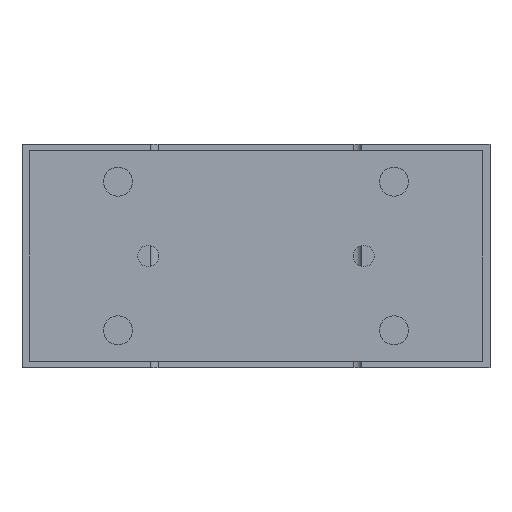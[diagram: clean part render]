
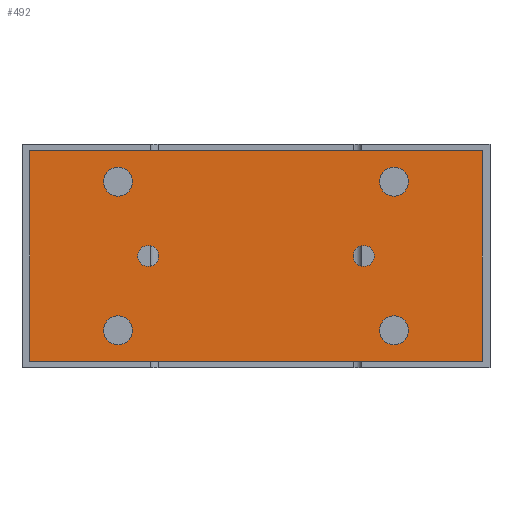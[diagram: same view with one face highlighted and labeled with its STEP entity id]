
A CAD part, left-side view. The second image highlights one B-rep face of the part: STEP entity #492.
In plain terms, the highlighted planar face has unit normal (-1, 0, 0).
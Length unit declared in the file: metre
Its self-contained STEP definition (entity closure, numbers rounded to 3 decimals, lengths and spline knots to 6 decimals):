
#492 = ADVANCED_FACE( '', ( #1150, #1151, #1152, #1153, #1154, #1155, #1156 ), #1157, .T. );
#1150 = FACE_BOUND( '', #1950, .T. );
#1151 = FACE_BOUND( '', #1951, .T. );
#1152 = FACE_BOUND( '', #1952, .T. );
#1153 = FACE_BOUND( '', #1953, .T. );
#1154 = FACE_BOUND( '', #1954, .T. );
#1155 = FACE_BOUND( '', #1955, .T. );
#1156 = FACE_OUTER_BOUND( '', #1956, .T. );
#1157 = PLANE( '', #1957 );
#1950 = EDGE_LOOP( '', ( #3181 ) );
#1951 = EDGE_LOOP( '', ( #3182 ) );
#1952 = EDGE_LOOP( '', ( #3183 ) );
#1953 = EDGE_LOOP( '', ( #3184 ) );
#1954 = EDGE_LOOP( '', ( #3185 ) );
#1955 = EDGE_LOOP( '', ( #3186 ) );
#1956 = EDGE_LOOP( '', ( #3187, #3188, #3189, #3190 ) );
#1957 = AXIS2_PLACEMENT_3D( '', #3191, #3192, #3193 );
#3181 = ORIENTED_EDGE( '', *, *, #4024, .F. );
#3182 = ORIENTED_EDGE( '', *, *, #3891, .F. );
#3183 = ORIENTED_EDGE( '', *, *, #4044, .F. );
#3184 = ORIENTED_EDGE( '', *, *, #3922, .F. );
#3185 = ORIENTED_EDGE( '', *, *, #3868, .F. );
#3186 = ORIENTED_EDGE( '', *, *, #4226, .T. );
#3187 = ORIENTED_EDGE( '', *, *, #3864, .T. );
#3188 = ORIENTED_EDGE( '', *, *, #4227, .T. );
#3189 = ORIENTED_EDGE( '', *, *, #4228, .T. );
#3190 = ORIENTED_EDGE( '', *, *, #4229, .T. );
#3191 = CARTESIAN_POINT( '', ( -0.118, -0.086, -0.0025 ) );
#3192 = DIRECTION( '', ( -1., 0., 0. ) );
#3193 = DIRECTION( '', ( 0., 0., 1. ) );
#3864 = EDGE_CURVE( '', #4473, #4471, #4474, .T. );
#3868 = EDGE_CURVE( '', #4479, #4479, #4480, .T. );
#3891 = EDGE_CURVE( '', #4515, #4515, #4516, .T. );
#3922 = EDGE_CURVE( '', #4565, #4565, #4566, .T. );
#4024 = EDGE_CURVE( '', #4732, #4732, #4733, .T. );
#4044 = EDGE_CURVE( '', #4762, #4762, #4763, .T. );
#4226 = EDGE_CURVE( '', #5030, #5030, #5031, .T. );
#4227 = EDGE_CURVE( '', #4471, #5032, #5033, .T. );
#4228 = EDGE_CURVE( '', #5032, #5034, #5035, .T. );
#4229 = EDGE_CURVE( '', #5034, #4473, #5036, .T. );
#4471 = VERTEX_POINT( '', #5335 );
#4473 = VERTEX_POINT( '', #5338 );
#4474 = LINE( '', #5339, #5340 );
#4479 = VERTEX_POINT( '', #5346 );
#4480 = CIRCLE( '', #5347, 0.004 );
#4515 = VERTEX_POINT( '', #5395 );
#4516 = CIRCLE( '', #5396, 0.0055 );
#4565 = VERTEX_POINT( '', #5448 );
#4566 = CIRCLE( '', #5449, 0.0055 );
#4732 = VERTEX_POINT( '', #5686 );
#4733 = CIRCLE( '', #5687, 0.0055 );
#4762 = VERTEX_POINT( '', #5720 );
#4763 = CIRCLE( '', #5721, 0.0055 );
#5030 = VERTEX_POINT( '', #6226 );
#5031 = CIRCLE( '', #6227, 0.004 );
#5032 = VERTEX_POINT( '', #6228 );
#5033 = LINE( '', #6229, #6230 );
#5034 = VERTEX_POINT( '', #6231 );
#5035 = LINE( '', #6232, #6233 );
#5036 = LINE( '', #6234, #6235 );
#5335 = CARTESIAN_POINT( '', ( -0.118, -0.086, -0.0025 ) );
#5338 = CARTESIAN_POINT( '', ( -0.118, -0.086, -0.0825 ) );
#5339 = CARTESIAN_POINT( '', ( -0.118, -0.086, -0.0825 ) );
#5340 = VECTOR( '', #6564, 1. );
#5346 = CARTESIAN_POINT( '', ( -0.118, -0.037, -0.0425 ) );
#5347 = AXIS2_PLACEMENT_3D( '', #6569, #6570, #6571 );
#5395 = CARTESIAN_POINT( '', ( -0.118, 0.0525, -0.06525 ) );
#5396 = AXIS2_PLACEMENT_3D( '', #6594, #6595, #6596 );
#5448 = CARTESIAN_POINT( '', ( -0.118, 0.0525, -0.00875 ) );
#5449 = AXIS2_PLACEMENT_3D( '', #6648, #6649, #6650 );
#5686 = CARTESIAN_POINT( '', ( -0.118, -0.0525, -0.06525 ) );
#5687 = AXIS2_PLACEMENT_3D( '', #6794, #6795, #6796 );
#5720 = CARTESIAN_POINT( '', ( -0.118, -0.0525, -0.00875 ) );
#5721 = AXIS2_PLACEMENT_3D( '', #6822, #6823, #6824 );
#6226 = CARTESIAN_POINT( '', ( -0.118, 0.037, -0.0425 ) );
#6227 = AXIS2_PLACEMENT_3D( '', #7012, #7013, #7014 );
#6228 = CARTESIAN_POINT( '', ( -0.118, 0.086, -0.0025 ) );
#6229 = CARTESIAN_POINT( '', ( -0.118, -0.086, -0.0025 ) );
#6230 = VECTOR( '', #7015, 1. );
#6231 = CARTESIAN_POINT( '', ( -0.118, 0.086, -0.0825 ) );
#6232 = CARTESIAN_POINT( '', ( -0.118, 0.086, -0.0025 ) );
#6233 = VECTOR( '', #7016, 1. );
#6234 = CARTESIAN_POINT( '', ( -0.118, 0.086, -0.0825 ) );
#6235 = VECTOR( '', #7017, 1. );
#6564 = DIRECTION( '', ( 0., 0., 1. ) );
#6569 = CARTESIAN_POINT( '', ( -0.118, -0.041, -0.0425 ) );
#6570 = DIRECTION( '', ( -1., 0., 0. ) );
#6571 = DIRECTION( '', ( 0., 1., 0. ) );
#6594 = CARTESIAN_POINT( '', ( -0.118, 0.0525, -0.07075 ) );
#6595 = DIRECTION( '', ( -1., 0., 0. ) );
#6596 = DIRECTION( '', ( 0., 0., 1. ) );
#6648 = CARTESIAN_POINT( '', ( -0.118, 0.0525, -0.01425 ) );
#6649 = DIRECTION( '', ( -1., 0., 0. ) );
#6650 = DIRECTION( '', ( 0., 0., 1. ) );
#6794 = CARTESIAN_POINT( '', ( -0.118, -0.0525, -0.07075 ) );
#6795 = DIRECTION( '', ( -1., 0., 0. ) );
#6796 = DIRECTION( '', ( 0., 0., 1. ) );
#6822 = CARTESIAN_POINT( '', ( -0.118, -0.0525, -0.01425 ) );
#6823 = DIRECTION( '', ( -1., 0., 0. ) );
#6824 = DIRECTION( '', ( 0., 0., 1. ) );
#7012 = CARTESIAN_POINT( '', ( -0.118, 0.041, -0.0425 ) );
#7013 = DIRECTION( '', ( 1., 0., 0. ) );
#7014 = DIRECTION( '', ( 0., -1., 0. ) );
#7015 = DIRECTION( '', ( 0., 1., 0. ) );
#7016 = DIRECTION( '', ( 0., 0., -1. ) );
#7017 = DIRECTION( '', ( 0., -1., 0. ) );
